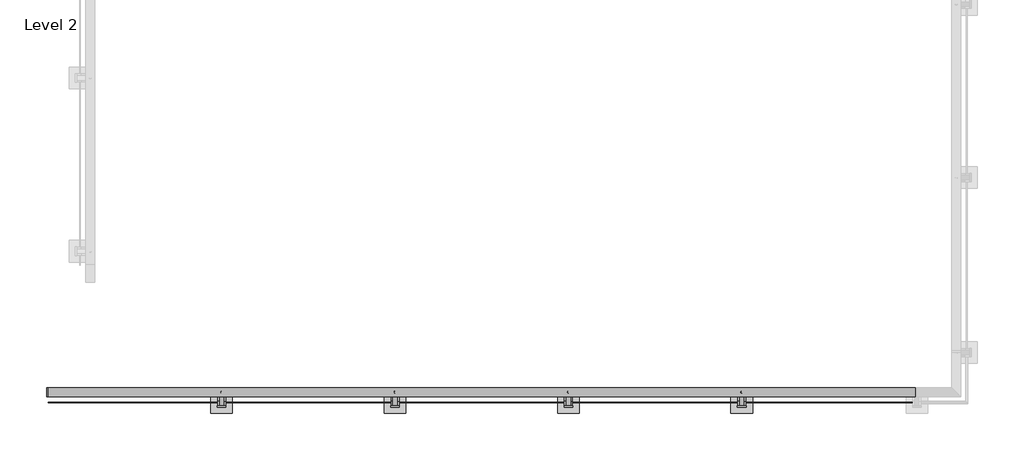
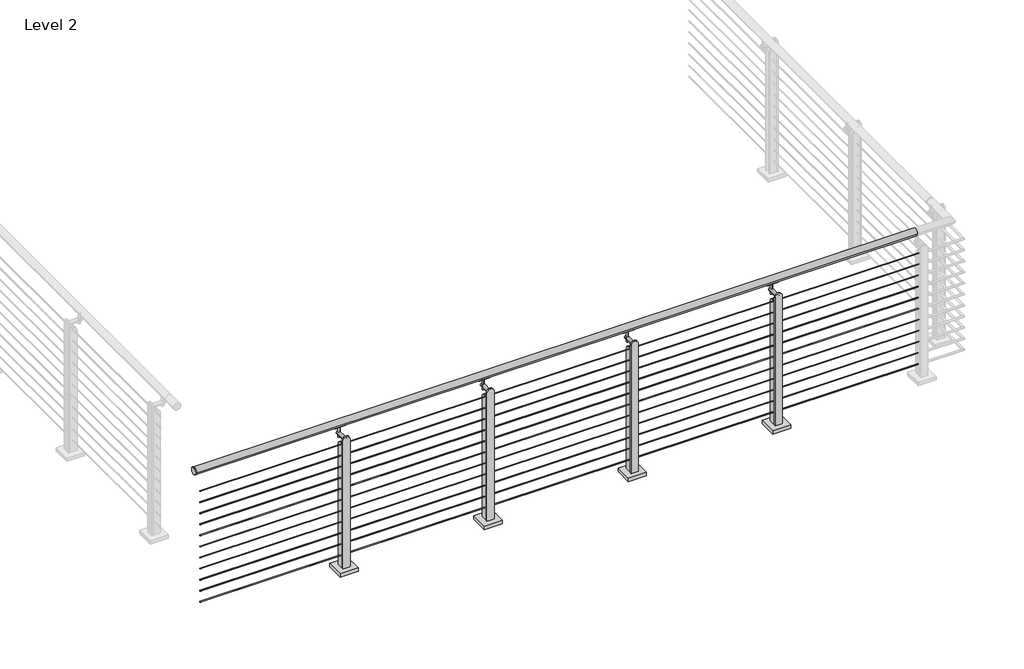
# One storey, part 5 of 12: 1 railing.
"""IFC4 building model written with IfcOpenShell, lengths in millimetres."""

from ifc_helpers import new_model, si_unit, point, frame, frame_2d, origin, place, context, project, spatial, polyline, circle_curve, trimmed, segment, composite_curve, outline, extrude, element, save
from ifc_brep_helpers import plane_surface, cylinder_surface, advanced_brep

model = new_model("IFC4")

# Units and contexts
model_context = context("Model", 3, world=origin())
ifc_project = project(units=[si_unit("LENGTHUNIT", "METRE", prefix="MILLI")], contexts=[model_context])

# Site, building, storey
site = spatial("IfcSite", under=ifc_project)
building = spatial("IfcBuilding", under=site)
storey = spatial("IfcBuildingStorey", under=building, Name="Level 2", Elevation=3048.0)

# Railing
placement = place(None, origin())
element("IfcRailing", 1, ObjectType="VIVA-TEE-Cable-Floor Mount-Straight", at=placement, inside=storey, context=model_context, shape_type="SolidModel", body=[
    advanced_brep(
    [(-4193.5313409, -35469.656782, 4102.1), (-4193.5313409, -35418.856782, 4102.1), (-9273.5313409, -35418.856782, 4102.1), (-9273.5313409, -35469.656782, 4102.1), (-9283.2605344, -35469.656782, 4102.1), (-9283.2605344, -35418.856782, 4102.1)],
    [
        (0, 1, circle_curve(frame((-4193.5313409, -35444.256782, 4102.1), z_axis=(1.0, 0.0, 0.0), x_axis=(0.0, 1.0, 0.0)), 25.4)),
        (1, 0, circle_curve(frame((-4193.5313409, -35444.256782, 4102.1), z_axis=(1.0, 0.0, 0.0), x_axis=(0.0, 1.0, 0.0)), 25.4)),
        (2, 3, circle_curve(frame((-9273.5313409, -35444.256782, 4102.1), z_axis=(1.0, 0.0, 0.0), x_axis=(0.0, 1.0, 0.0)), 25.4)),
        (3, 0),
        (1, 2),
        (3, 2, circle_curve(frame((-9273.5313409, -35444.256782, 4102.1), z_axis=(1.0, 0.0, 0.0), x_axis=(0.0, 1.0, 0.0)), 25.4)),
        (4, 5, circle_curve(frame((-9283.2605344, -35444.256782, 4102.1), z_axis=(-1.0, 0.0, 0.0), x_axis=(0.0, 1.0, 0.0)), 25.4)),
        (5, 4, circle_curve(frame((-9283.2605344, -35444.256782, 4102.1), z_axis=(-1.0, 0.0, 0.0), x_axis=(0.0, 1.0, 0.0)), 25.4)),
        (4, 3),
        (2, 5),
    ],
    [
        plane_surface(frame((-4193.5313409, -35444.256782, 4127.5), z_axis=(1.0, 0.0, 0.0), x_axis=(0.0, 1.0, 0.0))),
        cylinder_surface(frame((-9273.5313409, -35444.256782, 4102.1), z_axis=(-1.0, 0.0, 0.0), x_axis=(0.0, 1.0, 0.0)), 25.4),
        plane_surface(frame((-9283.2605344, -35444.256782, 4127.5), z_axis=(-1.0, 0.0, 0.0), x_axis=(0.0, 1.0, 0.0))),
        cylinder_surface(frame((-9283.2605344, -35444.256782, 4102.1), z_axis=(-1.0, 0.0, 0.0), x_axis=(0.0, 1.0, 0.0)), 25.4),
    ],
    [
        (0, [[1, 2]]),
        (1, [[3, 4, -2, 5]]),
        (1, [[6, -5, -1, -4]]),
        (2, [[7, 8]]),
        (3, [[-7, 9, -3, 10]]),
        (3, [[-8, -10, -6, -9]]),
    ],
),
    extrude(outline(composite_curve([segment(trimmed(circle_curve(frame_2d((-35504.581782, 3985.4124)), 2.3876), [point((-35502.194182, 3985.4124))], [point((-35506.969382, 3985.4124))], False, "CARTESIAN"), True, "CONTINUOUS"), segment(trimmed(circle_curve(frame_2d((-35504.581782, 3985.4124)), 2.3876), [point((-35506.969382, 3985.4124))], [point((-35502.194182, 3985.4124))], False, "CARTESIAN"), True, "CONTINUOUS")], self_intersect=False)), frame((-9273.5313409, 0.0, 0.0), z_axis=(1.0, 0.0, 0.0), x_axis=(0.0, 1.0, 0.0)), (0.0, 0.0, 1.0), 5080.0),
    extrude(outline(composite_curve([segment(trimmed(circle_curve(frame_2d((-35504.581782, 3902.8624)), 2.3876), [point((-35502.194182, 3902.8624))], [point((-35506.969382, 3902.8624))], False, "CARTESIAN"), True, "CONTINUOUS"), segment(trimmed(circle_curve(frame_2d((-35504.581782, 3902.8624)), 2.3876), [point((-35506.969382, 3902.8624))], [point((-35502.194182, 3902.8624))], False, "CARTESIAN"), True, "CONTINUOUS")], self_intersect=False)), frame((-9273.5313409, 0.0, 0.0), z_axis=(1.0, 0.0, 0.0), x_axis=(0.0, 1.0, 0.0)), (0.0, 0.0, 1.0), 5080.0),
    extrude(outline(composite_curve([segment(trimmed(circle_curve(frame_2d((-35504.581782, 3820.3124)), 2.3876), [point((-35502.194182, 3820.3124))], [point((-35506.969382, 3820.3124))], False, "CARTESIAN"), True, "CONTINUOUS"), segment(trimmed(circle_curve(frame_2d((-35504.581782, 3820.3124)), 2.3876), [point((-35506.969382, 3820.3124))], [point((-35502.194182, 3820.3124))], False, "CARTESIAN"), True, "CONTINUOUS")], self_intersect=False)), frame((-9273.5313409, 0.0, 0.0), z_axis=(1.0, 0.0, 0.0), x_axis=(0.0, 1.0, 0.0)), (0.0, 0.0, 1.0), 5080.0),
    extrude(outline(composite_curve([segment(trimmed(circle_curve(frame_2d((-35504.581782, 3737.7624)), 2.3876), [point((-35502.194182, 3737.7624))], [point((-35506.969382, 3737.7624))], False, "CARTESIAN"), True, "CONTINUOUS"), segment(trimmed(circle_curve(frame_2d((-35504.581782, 3737.7624)), 2.3876), [point((-35506.969382, 3737.7624))], [point((-35502.194182, 3737.7624))], False, "CARTESIAN"), True, "CONTINUOUS")], self_intersect=False)), frame((-9273.5313409, 0.0, 0.0), z_axis=(1.0, 0.0, 0.0), x_axis=(0.0, 1.0, 0.0)), (0.0, 0.0, 1.0), 5080.0),
    extrude(outline(composite_curve([segment(trimmed(circle_curve(frame_2d((-35504.581782, 3655.2124)), 2.3876), [point((-35502.194182, 3655.2124))], [point((-35506.969382, 3655.2124))], False, "CARTESIAN"), True, "CONTINUOUS"), segment(trimmed(circle_curve(frame_2d((-35504.581782, 3655.2124)), 2.3876), [point((-35506.969382, 3655.2124))], [point((-35502.194182, 3655.2124))], False, "CARTESIAN"), True, "CONTINUOUS")], self_intersect=False)), frame((-9273.5313409, 0.0, 0.0), z_axis=(1.0, 0.0, 0.0), x_axis=(0.0, 1.0, 0.0)), (0.0, 0.0, 1.0), 5080.0),
    extrude(outline(composite_curve([segment(trimmed(circle_curve(frame_2d((-35504.581782, 3572.6624)), 2.3876), [point((-35502.194182, 3572.6624))], [point((-35506.969382, 3572.6624))], False, "CARTESIAN"), True, "CONTINUOUS"), segment(trimmed(circle_curve(frame_2d((-35504.581782, 3572.6624)), 2.3876), [point((-35506.969382, 3572.6624))], [point((-35502.194182, 3572.6624))], False, "CARTESIAN"), True, "CONTINUOUS")], self_intersect=False)), frame((-9273.5313409, 0.0, 0.0), z_axis=(1.0, 0.0, 0.0), x_axis=(0.0, 1.0, 0.0)), (0.0, 0.0, 1.0), 5080.0),
    extrude(outline(composite_curve([segment(trimmed(circle_curve(frame_2d((-35504.581782, 3490.1124)), 2.3876), [point((-35502.194182, 3490.1124))], [point((-35506.969382, 3490.1124))], False, "CARTESIAN"), True, "CONTINUOUS"), segment(trimmed(circle_curve(frame_2d((-35504.581782, 3490.1124)), 2.3876), [point((-35506.969382, 3490.1124))], [point((-35502.194182, 3490.1124))], False, "CARTESIAN"), True, "CONTINUOUS")], self_intersect=False)), frame((-9273.5313409, 0.0, 0.0), z_axis=(1.0, 0.0, 0.0), x_axis=(0.0, 1.0, 0.0)), (0.0, 0.0, 1.0), 5080.0),
    extrude(outline(composite_curve([segment(trimmed(circle_curve(frame_2d((-35504.581782, 3407.5624)), 2.3876), [point((-35502.194182, 3407.5624))], [point((-35506.969382, 3407.5624))], False, "CARTESIAN"), True, "CONTINUOUS"), segment(trimmed(circle_curve(frame_2d((-35504.581782, 3407.5624)), 2.3876), [point((-35506.969382, 3407.5624))], [point((-35502.194182, 3407.5624))], False, "CARTESIAN"), True, "CONTINUOUS")], self_intersect=False)), frame((-9273.5313409, 0.0, 0.0), z_axis=(1.0, 0.0, 0.0), x_axis=(0.0, 1.0, 0.0)), (0.0, 0.0, 1.0), 5080.0),
    extrude(outline(composite_curve([segment(trimmed(circle_curve(frame_2d((-35504.581782, 3325.0124)), 2.3876), [point((-35502.194182, 3325.0124))], [point((-35506.969382, 3325.0124))], False, "CARTESIAN"), True, "CONTINUOUS"), segment(trimmed(circle_curve(frame_2d((-35504.581782, 3325.0124)), 2.3876), [point((-35506.969382, 3325.0124))], [point((-35502.194182, 3325.0124))], False, "CARTESIAN"), True, "CONTINUOUS")], self_intersect=False)), frame((-9273.5313409, 0.0, 0.0), z_axis=(1.0, 0.0, 0.0), x_axis=(0.0, 1.0, 0.0)), (0.0, 0.0, 1.0), 5080.0),
    extrude(outline(composite_curve([segment(trimmed(circle_curve(frame_2d((-35504.581782, 3242.4624)), 2.3876), [point((-35502.194182, 3242.4624))], [point((-35506.969382, 3242.4624))], False, "CARTESIAN"), True, "CONTINUOUS"), segment(trimmed(circle_curve(frame_2d((-35504.581782, 3242.4624)), 2.3876), [point((-35506.969382, 3242.4624))], [point((-35502.194182, 3242.4624))], False, "CARTESIAN"), True, "CONTINUOUS")], self_intersect=False)), frame((-9273.5313409, 0.0, 0.0), z_axis=(1.0, 0.0, 0.0), x_axis=(0.0, 1.0, 0.0)), (0.0, 0.0, 1.0), 5080.0),
    extrude(outline(composite_curve([segment(trimmed(circle_curve(frame_2d((-35504.581782, 3159.9124)), 2.3876), [point((-35502.194182, 3159.9124))], [point((-35506.969382, 3159.9124))], False, "CARTESIAN"), True, "CONTINUOUS"), segment(trimmed(circle_curve(frame_2d((-35504.581782, 3159.9124)), 2.3876), [point((-35506.969382, 3159.9124))], [point((-35502.194182, 3159.9124))], False, "CARTESIAN"), True, "CONTINUOUS")], self_intersect=False)), frame((-9273.5313409, 0.0, 0.0), z_axis=(1.0, 0.0, 0.0), x_axis=(0.0, 1.0, 0.0)), (0.0, 0.0, 1.0), 5080.0),
    extrude(outline(composite_curve([segment(trimmed(circle_curve(frame_2d((0.0, 7.0)), 7.0), [point((0.0, 14.0))], [point((0.0, 0.0))], False, "CARTESIAN"), True, "CONTINUOUS"), segment(trimmed(circle_curve(frame_2d((0.0, 7.0)), 7.0), [point((0.0, 0.0))], [point((0.0, 14.0))], False, "CARTESIAN"), True, "CONTINUOUS")], self_intersect=False)), frame((-5209.457631, -35450.9666358, 3997.1832524), z_axis=(0.004253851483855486, 0.0, 0.9999909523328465), x_axis=(0.9999909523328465, 0.0, -0.004253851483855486)), (0.0, 0.0, 1.0), 75.97),
    extrude(outline(composite_curve([segment(trimmed(circle_curve(frame_2d((-35443.8252317, 4095.2025651)), 19.05), [point((-35457.35482, 4081.7916463))], [point((-35430.2956435, 4081.7916463))], True, "CARTESIAN"), True, "CONTINUOUS"), segment(polyline([(-35430.2956435, 4081.7916463), (-35429.2692539, 4080.7742593)]), True, "CONTINUOUS"), segment(trimmed(circle_curve(frame_2d((-35430.3252317, 4079.7089374)), 1.5), [point((-35429.2692539, 4080.7742593))], [point((-35429.3398303, 4078.5780156))], False, "CARTESIAN"), True, "CONTINUOUS"), segment(trimmed(circle_curve(frame_2d((-35443.8252317, 4095.2025651)), 22.05), [point((-35429.3398303, 4078.5780156))], [point((-35458.3106332, 4078.5780156))], False, "CARTESIAN"), True, "CONTINUOUS"), segment(trimmed(circle_curve(frame_2d((-35457.3252317, 4079.7089374)), 1.5), [point((-35458.3106332, 4078.5780156))], [point((-35458.3812096, 4080.7742593))], False, "CARTESIAN"), True, "CONTINUOUS"), segment(polyline([(-35458.3812096, 4080.7742593), (-35457.35482, 4081.7916463)]), True, "CONTINUOUS")], self_intersect=False)), frame((-5244.9961052, 0.0, 0.0), z_axis=(1.0, 0.0, 0.0), x_axis=(0.0, 1.0, 0.0)), (0.0, 0.0, 1.0), 74.5229187),
    extrude(outline(composite_curve([segment(trimmed(circle_curve(frame_2d((4024.1259188, -5209.2533005)), 12.5), [point((4024.1259188, -5221.7533005))], [point((4024.1259188, -5196.7533005))], False, "CARTESIAN"), True, "CONTINUOUS"), segment(trimmed(circle_curve(frame_2d((4024.1259188, -5209.2533005)), 12.5), [point((4024.1259188, -5196.7533005))], [point((4024.1259188, -5221.7533005))], False, "CARTESIAN"), True, "CONTINUOUS")], self_intersect=False)), frame((0.0, -35523.7326217, 0.0), z_axis=(0.0, 1.0, 0.0), x_axis=(0.0, 0.0, 1.0)), (0.0, 0.0, 1.0), 92.423),
    extrude(outline(polyline([(-5145.6344659, -35441.081782), (-5145.6344659, -35568.081782), (-5272.6344659, -35568.081782), (-5272.6344659, -35441.081782), (-5145.6344659, -35441.081782)])), frame((0.0, 0.0, 3048.0), z_axis=(0.0, 0.0, 1.0), x_axis=(1.0, 0.0, 0.0)), (0.0, 0.0, 1.0), 25.4),
    extrude(outline(composite_curve([segment(trimmed(circle_curve(frame_2d((-35497.5663305, 3972.2425)), 24.765), [point((-35497.5663305, 3997.0075))], [point((-35472.8013305, 3972.2425))], False, "CARTESIAN"), True, "CONTINUOUS"), segment(polyline([(-35472.8013305, 3972.2425), (-35472.8013305, 3073.4), (-35523.631782, 3073.4), (-35523.631782, 3997.0075), (-35497.5663305, 3997.0075)]), True, "CONTINUOUS")], self_intersect=False)), frame((-5195.1309663, 0.0, 0.0), z_axis=(1.0, 0.0, 0.0), x_axis=(0.0, 1.0, 0.0)), (0.0, 0.0, 1.0), 9.525),
    extrude(outline(composite_curve([segment(polyline([(3073.4, -5183.7344659), (4027.17, -5183.7344659)]), True, "CONTINUOUS"), segment(trimmed(circle_curve(frame_2d((4027.17, -5209.1344659)), 25.4), [point((4027.17, -5183.7344659))], [point((4027.17, -5234.5344659))], False, "CARTESIAN"), True, "CONTINUOUS"), segment(polyline([(4027.17, -5234.5344659), (3073.4, -5234.5344659), (3073.4, -5183.7344659)]), True, "CONTINUOUS")], self_intersect=False)), frame((0.0, -35533.156782, 0.0), z_axis=(0.0, 1.0, 0.0), x_axis=(0.0, 0.0, 1.0)), (0.0, 0.0, 1.0), 9.525),
    extrude(outline(composite_curve([segment(trimmed(circle_curve(frame_2d((-35497.5663305, 3972.2425)), 24.765), [point((-35497.5663305, 3997.0075))], [point((-35472.8013305, 3972.2425))], False, "CARTESIAN"), True, "CONTINUOUS"), segment(polyline([(-35472.8013305, 3972.2425), (-35472.8013305, 3073.4), (-35523.631782, 3073.4), (-35523.631782, 3997.0075), (-35497.5663305, 3997.0075)]), True, "CONTINUOUS")], self_intersect=False)), frame((-5232.6629655, 0.0, 0.0), z_axis=(1.0, 0.0, 0.0), x_axis=(0.0, 1.0, 0.0)), (0.0, 0.0, 1.0), 9.525),
    extrude(outline(composite_curve([segment(trimmed(circle_curve(frame_2d((0.0, 7.0)), 7.0), [point((0.0, 14.0))], [point((0.0, 0.0))], False, "CARTESIAN"), True, "CONTINUOUS"), segment(trimmed(circle_curve(frame_2d((0.0, 7.0)), 7.0), [point((0.0, 0.0))], [point((0.0, 14.0))], False, "CARTESIAN"), True, "CONTINUOUS")], self_intersect=False)), frame((-6225.457631, -35450.9666358, 3997.1832524), z_axis=(0.004253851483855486, 0.0, 0.9999909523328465), x_axis=(0.9999909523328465, 0.0, -0.004253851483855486)), (0.0, 0.0, 1.0), 75.97),
    extrude(outline(composite_curve([segment(trimmed(circle_curve(frame_2d((-35443.8252317, 4095.2025651)), 19.05), [point((-35457.35482, 4081.7916463))], [point((-35430.2956435, 4081.7916463))], True, "CARTESIAN"), True, "CONTINUOUS"), segment(polyline([(-35430.2956435, 4081.7916463), (-35429.2692539, 4080.7742593)]), True, "CONTINUOUS"), segment(trimmed(circle_curve(frame_2d((-35430.3252317, 4079.7089374)), 1.5), [point((-35429.2692539, 4080.7742593))], [point((-35429.3398303, 4078.5780156))], False, "CARTESIAN"), True, "CONTINUOUS"), segment(trimmed(circle_curve(frame_2d((-35443.8252317, 4095.2025651)), 22.05), [point((-35429.3398303, 4078.5780156))], [point((-35458.3106332, 4078.5780156))], False, "CARTESIAN"), True, "CONTINUOUS"), segment(trimmed(circle_curve(frame_2d((-35457.3252317, 4079.7089374)), 1.5), [point((-35458.3106332, 4078.5780156))], [point((-35458.3812096, 4080.7742593))], False, "CARTESIAN"), True, "CONTINUOUS"), segment(polyline([(-35458.3812096, 4080.7742593), (-35457.35482, 4081.7916463)]), True, "CONTINUOUS")], self_intersect=False)), frame((-6260.9961052, 0.0, 0.0), z_axis=(1.0, 0.0, 0.0), x_axis=(0.0, 1.0, 0.0)), (0.0, 0.0, 1.0), 74.5229187),
    extrude(outline(composite_curve([segment(trimmed(circle_curve(frame_2d((4024.1259188, -6225.2533005)), 12.5), [point((4024.1259188, -6237.7533005))], [point((4024.1259188, -6212.7533005))], False, "CARTESIAN"), True, "CONTINUOUS"), segment(trimmed(circle_curve(frame_2d((4024.1259188, -6225.2533005)), 12.5), [point((4024.1259188, -6212.7533005))], [point((4024.1259188, -6237.7533005))], False, "CARTESIAN"), True, "CONTINUOUS")], self_intersect=False)), frame((0.0, -35523.7326217, 0.0), z_axis=(0.0, 1.0, 0.0), x_axis=(0.0, 0.0, 1.0)), (0.0, 0.0, 1.0), 92.423),
    extrude(outline(polyline([(-6161.6344659, -35441.081782), (-6161.6344659, -35568.081782), (-6288.6344659, -35568.081782), (-6288.6344659, -35441.081782), (-6161.6344659, -35441.081782)])), frame((0.0, 0.0, 3048.0), z_axis=(0.0, 0.0, 1.0), x_axis=(1.0, 0.0, 0.0)), (0.0, 0.0, 1.0), 25.4),
    extrude(outline(composite_curve([segment(trimmed(circle_curve(frame_2d((-35497.5663305, 3972.2425)), 24.765), [point((-35497.5663305, 3997.0075))], [point((-35472.8013305, 3972.2425))], False, "CARTESIAN"), True, "CONTINUOUS"), segment(polyline([(-35472.8013305, 3972.2425), (-35472.8013305, 3073.4), (-35523.631782, 3073.4), (-35523.631782, 3997.0075), (-35497.5663305, 3997.0075)]), True, "CONTINUOUS")], self_intersect=False)), frame((-6211.1309663, 0.0, 0.0), z_axis=(1.0, 0.0, 0.0), x_axis=(0.0, 1.0, 0.0)), (0.0, 0.0, 1.0), 9.525),
    extrude(outline(composite_curve([segment(polyline([(3073.4, -6199.7344659), (4027.17, -6199.7344659)]), True, "CONTINUOUS"), segment(trimmed(circle_curve(frame_2d((4027.17, -6225.1344659)), 25.4), [point((4027.17, -6199.7344659))], [point((4027.17, -6250.5344659))], False, "CARTESIAN"), True, "CONTINUOUS"), segment(polyline([(4027.17, -6250.5344659), (3073.4, -6250.5344659), (3073.4, -6199.7344659)]), True, "CONTINUOUS")], self_intersect=False)), frame((0.0, -35533.156782, 0.0), z_axis=(0.0, 1.0, 0.0), x_axis=(0.0, 0.0, 1.0)), (0.0, 0.0, 1.0), 9.525),
    extrude(outline(composite_curve([segment(trimmed(circle_curve(frame_2d((-35497.5663305, 3972.2425)), 24.765), [point((-35497.5663305, 3997.0075))], [point((-35472.8013305, 3972.2425))], False, "CARTESIAN"), True, "CONTINUOUS"), segment(polyline([(-35472.8013305, 3972.2425), (-35472.8013305, 3073.4), (-35523.631782, 3073.4), (-35523.631782, 3997.0075), (-35497.5663305, 3997.0075)]), True, "CONTINUOUS")], self_intersect=False)), frame((-6248.6629655, 0.0, 0.0), z_axis=(1.0, 0.0, 0.0), x_axis=(0.0, 1.0, 0.0)), (0.0, 0.0, 1.0), 9.525),
    extrude(outline(composite_curve([segment(trimmed(circle_curve(frame_2d((0.0, 7.0)), 7.0), [point((0.0, 14.0))], [point((0.0, 0.0))], False, "CARTESIAN"), True, "CONTINUOUS"), segment(trimmed(circle_curve(frame_2d((0.0, 7.0)), 7.0), [point((0.0, 0.0))], [point((0.0, 14.0))], False, "CARTESIAN"), True, "CONTINUOUS")], self_intersect=False)), frame((-7241.457631, -35450.9666358, 3997.1832524), z_axis=(0.004253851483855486, 0.0, 0.9999909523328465), x_axis=(0.9999909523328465, 0.0, -0.004253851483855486)), (0.0, 0.0, 1.0), 75.97),
    extrude(outline(composite_curve([segment(trimmed(circle_curve(frame_2d((-35443.8252317, 4095.2025651)), 19.05), [point((-35457.35482, 4081.7916463))], [point((-35430.2956435, 4081.7916463))], True, "CARTESIAN"), True, "CONTINUOUS"), segment(polyline([(-35430.2956435, 4081.7916463), (-35429.2692539, 4080.7742593)]), True, "CONTINUOUS"), segment(trimmed(circle_curve(frame_2d((-35430.3252317, 4079.7089374)), 1.5), [point((-35429.2692539, 4080.7742593))], [point((-35429.3398303, 4078.5780156))], False, "CARTESIAN"), True, "CONTINUOUS"), segment(trimmed(circle_curve(frame_2d((-35443.8252317, 4095.2025651)), 22.05), [point((-35429.3398303, 4078.5780156))], [point((-35458.3106332, 4078.5780156))], False, "CARTESIAN"), True, "CONTINUOUS"), segment(trimmed(circle_curve(frame_2d((-35457.3252317, 4079.7089374)), 1.5), [point((-35458.3106332, 4078.5780156))], [point((-35458.3812096, 4080.7742593))], False, "CARTESIAN"), True, "CONTINUOUS"), segment(polyline([(-35458.3812096, 4080.7742593), (-35457.35482, 4081.7916463)]), True, "CONTINUOUS")], self_intersect=False)), frame((-7276.9961052, 0.0, 0.0), z_axis=(1.0, 0.0, 0.0), x_axis=(0.0, 1.0, 0.0)), (0.0, 0.0, 1.0), 74.5229187),
    extrude(outline(composite_curve([segment(trimmed(circle_curve(frame_2d((4024.1259188, -7241.2533005)), 12.5), [point((4024.1259188, -7253.7533005))], [point((4024.1259188, -7228.7533005))], False, "CARTESIAN"), True, "CONTINUOUS"), segment(trimmed(circle_curve(frame_2d((4024.1259188, -7241.2533005)), 12.5), [point((4024.1259188, -7228.7533005))], [point((4024.1259188, -7253.7533005))], False, "CARTESIAN"), True, "CONTINUOUS")], self_intersect=False)), frame((0.0, -35523.7326217, 0.0), z_axis=(0.0, 1.0, 0.0), x_axis=(0.0, 0.0, 1.0)), (0.0, 0.0, 1.0), 92.423),
    extrude(outline(polyline([(-7177.6344659, -35441.081782), (-7177.6344659, -35568.081782), (-7304.6344659, -35568.081782), (-7304.6344659, -35441.081782), (-7177.6344659, -35441.081782)])), frame((0.0, 0.0, 3048.0), z_axis=(0.0, 0.0, 1.0), x_axis=(1.0, 0.0, 0.0)), (0.0, 0.0, 1.0), 25.4),
    extrude(outline(composite_curve([segment(trimmed(circle_curve(frame_2d((-35497.5663305, 3972.2425)), 24.765), [point((-35497.5663305, 3997.0075))], [point((-35472.8013305, 3972.2425))], False, "CARTESIAN"), True, "CONTINUOUS"), segment(polyline([(-35472.8013305, 3972.2425), (-35472.8013305, 3073.4), (-35523.631782, 3073.4), (-35523.631782, 3997.0075), (-35497.5663305, 3997.0075)]), True, "CONTINUOUS")], self_intersect=False)), frame((-7227.1309663, 0.0, 0.0), z_axis=(1.0, 0.0, 0.0), x_axis=(0.0, 1.0, 0.0)), (0.0, 0.0, 1.0), 9.525),
    extrude(outline(composite_curve([segment(polyline([(3073.4, -7215.7344659), (4027.17, -7215.7344659)]), True, "CONTINUOUS"), segment(trimmed(circle_curve(frame_2d((4027.17, -7241.1344659)), 25.4), [point((4027.17, -7215.7344659))], [point((4027.17, -7266.5344659))], False, "CARTESIAN"), True, "CONTINUOUS"), segment(polyline([(4027.17, -7266.5344659), (3073.4, -7266.5344659), (3073.4, -7215.7344659)]), True, "CONTINUOUS")], self_intersect=False)), frame((0.0, -35533.156782, 0.0), z_axis=(0.0, 1.0, 0.0), x_axis=(0.0, 0.0, 1.0)), (0.0, 0.0, 1.0), 9.525),
    extrude(outline(composite_curve([segment(trimmed(circle_curve(frame_2d((-35497.5663305, 3972.2425)), 24.765), [point((-35497.5663305, 3997.0075))], [point((-35472.8013305, 3972.2425))], False, "CARTESIAN"), True, "CONTINUOUS"), segment(polyline([(-35472.8013305, 3972.2425), (-35472.8013305, 3073.4), (-35523.631782, 3073.4), (-35523.631782, 3997.0075), (-35497.5663305, 3997.0075)]), True, "CONTINUOUS")], self_intersect=False)), frame((-7264.6629655, 0.0, 0.0), z_axis=(1.0, 0.0, 0.0), x_axis=(0.0, 1.0, 0.0)), (0.0, 0.0, 1.0), 9.525),
    extrude(outline(composite_curve([segment(trimmed(circle_curve(frame_2d((0.0, 7.0)), 7.0), [point((0.0, 14.0))], [point((0.0, 0.0))], False, "CARTESIAN"), True, "CONTINUOUS"), segment(trimmed(circle_curve(frame_2d((0.0, 7.0)), 7.0), [point((0.0, 0.0))], [point((0.0, 14.0))], False, "CARTESIAN"), True, "CONTINUOUS")], self_intersect=False)), frame((-8257.457631, -35450.9666358, 3997.1832524), z_axis=(0.004253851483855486, 0.0, 0.9999909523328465), x_axis=(0.9999909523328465, 0.0, -0.004253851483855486)), (0.0, 0.0, 1.0), 75.97),
    extrude(outline(composite_curve([segment(trimmed(circle_curve(frame_2d((-35443.8252317, 4095.2025651)), 19.05), [point((-35457.35482, 4081.7916463))], [point((-35430.2956435, 4081.7916463))], True, "CARTESIAN"), True, "CONTINUOUS"), segment(polyline([(-35430.2956435, 4081.7916463), (-35429.2692539, 4080.7742593)]), True, "CONTINUOUS"), segment(trimmed(circle_curve(frame_2d((-35430.3252317, 4079.7089374)), 1.5), [point((-35429.2692539, 4080.7742593))], [point((-35429.3398303, 4078.5780156))], False, "CARTESIAN"), True, "CONTINUOUS"), segment(trimmed(circle_curve(frame_2d((-35443.8252317, 4095.2025651)), 22.05), [point((-35429.3398303, 4078.5780156))], [point((-35458.3106332, 4078.5780156))], False, "CARTESIAN"), True, "CONTINUOUS"), segment(trimmed(circle_curve(frame_2d((-35457.3252317, 4079.7089374)), 1.5), [point((-35458.3106332, 4078.5780156))], [point((-35458.3812096, 4080.7742593))], False, "CARTESIAN"), True, "CONTINUOUS"), segment(polyline([(-35458.3812096, 4080.7742593), (-35457.35482, 4081.7916463)]), True, "CONTINUOUS")], self_intersect=False)), frame((-8292.9961052, 0.0, 0.0), z_axis=(1.0, 0.0, 0.0), x_axis=(0.0, 1.0, 0.0)), (0.0, 0.0, 1.0), 74.5229187),
    extrude(outline(composite_curve([segment(trimmed(circle_curve(frame_2d((4024.1259188, -8257.2533005)), 12.5), [point((4024.1259188, -8269.7533005))], [point((4024.1259188, -8244.7533005))], False, "CARTESIAN"), True, "CONTINUOUS"), segment(trimmed(circle_curve(frame_2d((4024.1259188, -8257.2533005)), 12.5), [point((4024.1259188, -8244.7533005))], [point((4024.1259188, -8269.7533005))], False, "CARTESIAN"), True, "CONTINUOUS")], self_intersect=False)), frame((0.0, -35523.7326217, 0.0), z_axis=(0.0, 1.0, 0.0), x_axis=(0.0, 0.0, 1.0)), (0.0, 0.0, 1.0), 92.423),
    extrude(outline(polyline([(-8193.6344659, -35441.081782), (-8193.6344659, -35568.081782), (-8320.6344659, -35568.081782), (-8320.6344659, -35441.081782), (-8193.6344659, -35441.081782)])), frame((0.0, 0.0, 3048.0), z_axis=(0.0, 0.0, 1.0), x_axis=(1.0, 0.0, 0.0)), (0.0, 0.0, 1.0), 25.4),
    extrude(outline(composite_curve([segment(trimmed(circle_curve(frame_2d((-35497.5663305, 3972.2425)), 24.765), [point((-35497.5663305, 3997.0075))], [point((-35472.8013305, 3972.2425))], False, "CARTESIAN"), True, "CONTINUOUS"), segment(polyline([(-35472.8013305, 3972.2425), (-35472.8013305, 3073.4), (-35523.631782, 3073.4), (-35523.631782, 3997.0075), (-35497.5663305, 3997.0075)]), True, "CONTINUOUS")], self_intersect=False)), frame((-8243.1309663, 0.0, 0.0), z_axis=(1.0, 0.0, 0.0), x_axis=(0.0, 1.0, 0.0)), (0.0, 0.0, 1.0), 9.525),
    extrude(outline(composite_curve([segment(polyline([(3073.4, -8231.7344659), (4027.17, -8231.7344659)]), True, "CONTINUOUS"), segment(trimmed(circle_curve(frame_2d((4027.17, -8257.1344659)), 25.4), [point((4027.17, -8231.7344659))], [point((4027.17, -8282.5344659))], False, "CARTESIAN"), True, "CONTINUOUS"), segment(polyline([(4027.17, -8282.5344659), (3073.4, -8282.5344659), (3073.4, -8231.7344659)]), True, "CONTINUOUS")], self_intersect=False)), frame((0.0, -35533.156782, 0.0), z_axis=(0.0, 1.0, 0.0), x_axis=(0.0, 0.0, 1.0)), (0.0, 0.0, 1.0), 9.525),
    extrude(outline(composite_curve([segment(trimmed(circle_curve(frame_2d((-35497.5663305, 3972.2425)), 24.765), [point((-35497.5663305, 3997.0075))], [point((-35472.8013305, 3972.2425))], False, "CARTESIAN"), True, "CONTINUOUS"), segment(polyline([(-35472.8013305, 3972.2425), (-35472.8013305, 3073.4), (-35523.631782, 3073.4), (-35523.631782, 3997.0075), (-35497.5663305, 3997.0075)]), True, "CONTINUOUS")], self_intersect=False)), frame((-8280.6629655, 0.0, 0.0), z_axis=(1.0, 0.0, 0.0), x_axis=(0.0, 1.0, 0.0)), (0.0, 0.0, 1.0), 9.525),
])

save(model, "model.ifc")
